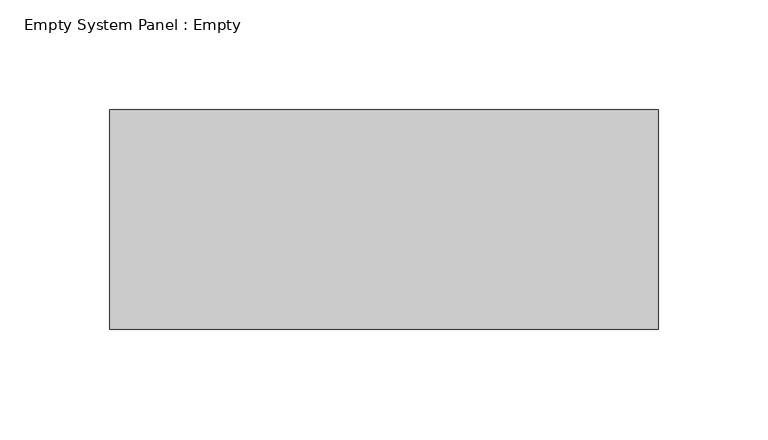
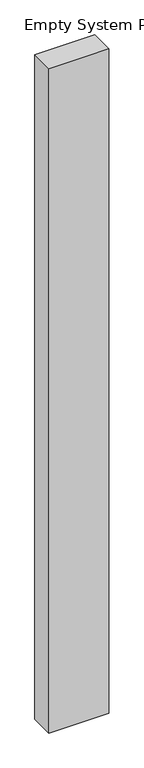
"""IFC4 building model written with IfcOpenShell, lengths in millimetres: plate geometry, Empty System Panel : Empty."""

from ifc_helpers import new_model, si_unit, origin, origin_with_axes, place, context, project, spatial, polyline, outline, extrude, source, transform, mapped, element, save


def empty_system_panel_empty_93422e2e(model_context):
    return source(origin(), model_context, "Body", "SweptSolid", [
        extrude(outline(polyline([(125.0, -50.0), (-125.0, -50.0), (-125.0, 50.0), (125.0, 50.0), (125.0, -50.0)])), origin_with_axes(), (0.0, 0.0, 1.0), 2925.0),
    ])


if __name__ == "__main__":
    model = new_model("IFC4")
    model_context = context("Model", 3, world=origin())
    ifc_project = project(units=[si_unit("LENGTHUNIT", "METRE", prefix="MILLI")], contexts=[model_context])
    site = spatial("IfcSite", under=ifc_project)
    building = spatial("IfcBuilding", under=site)
    placement = place(None, origin())
    empty_system_panel_empty_shape = empty_system_panel_empty_93422e2e(model_context)
    element("IfcPlate", 1, ObjectType="Empty System Panel : Empty", at=placement, inside=building, context=model_context, shape_type="MappedRepresentation", body=[
        mapped(empty_system_panel_empty_shape, transform((0.0, 0.0, 0.0), x_axis=(1.0, 0.0, 0.0), y_axis=(0.0, 1.0, 0.0), z_axis=(0.0, 0.0, 1.0))),
    ])
    save(model, "model.ifc")
